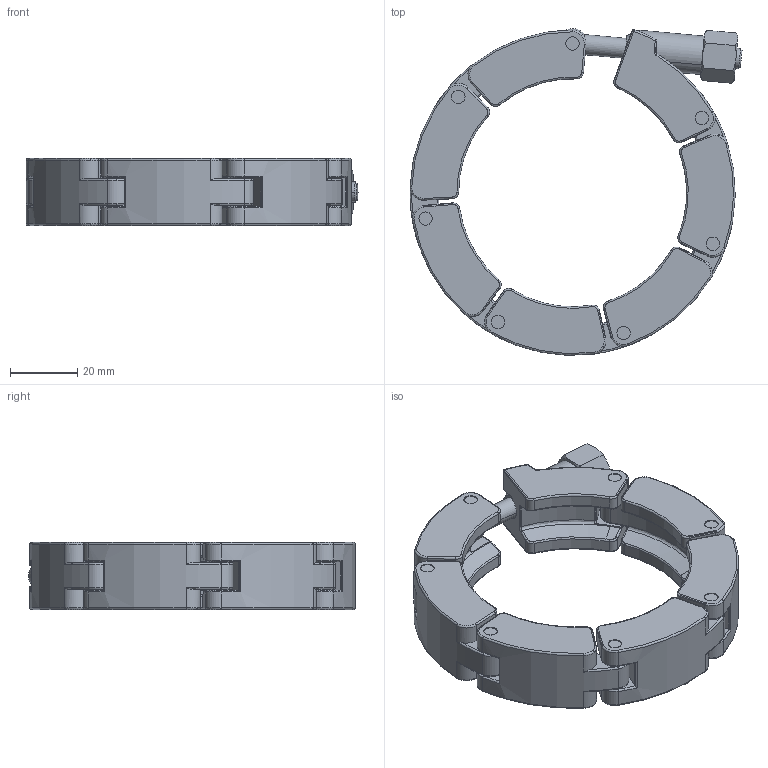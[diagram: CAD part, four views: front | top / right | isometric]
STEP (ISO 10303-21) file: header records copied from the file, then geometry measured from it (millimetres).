
FILE_DESCRIPTION((''),'2;1');
FILE_NAME('W:\211-024.stp','2003-10-02T16:15:11',('KAA'),(''),'Autodesk Inventor (R) 6.0','Autodesk Inventor (R) 6.0','');
FILE_SCHEMA(('CONFIG_CONTROL_DESIGN'));
Length unit declared in the file: millimetre
Products named in the file (1): 211-024
Bounding box: 99.01 x 97.44 x 20 mm (x, y, z)
Volume: 59060.6 mm3; surface area: 25325 mm2
Topology: 1 solids, 1 shells, 751 faces, 1913 edges, 1179 vertices
Faces by surface type: cylinder 264, torus 206, bspline 120, plane 104, cone 47, sphere 10
Full cylindrical faces by diameter (mm): 4 x5
Entity records: 74965 total; most frequent: CARTESIAN_POINT 57326, ORIENTED_EDGE 3782, DIRECTION 3706, EDGE_CURVE 1891, AXIS2_PLACEMENT_3D 1644, VERTEX_POINT 1174, CIRCLE 1000, EDGE_LOOP 801
